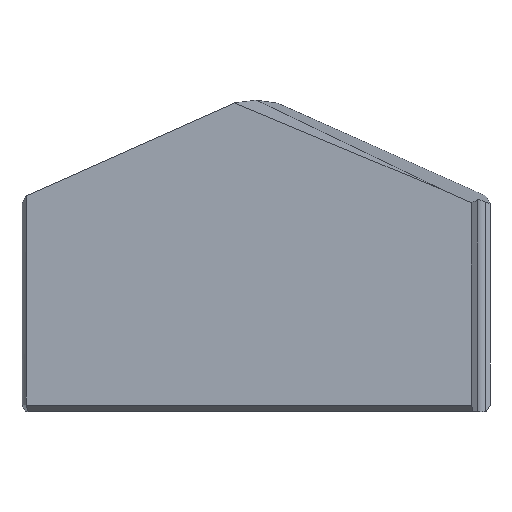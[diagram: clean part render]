
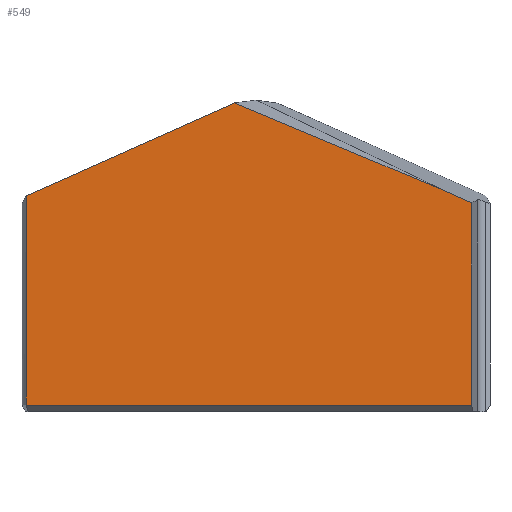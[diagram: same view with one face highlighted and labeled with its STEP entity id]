
A CAD part, top view. The second image highlights one B-rep face of the part: STEP entity #549.
In plain terms, the highlighted planar face has unit normal (0, 0, 1).
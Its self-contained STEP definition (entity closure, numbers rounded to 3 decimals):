
#12 = EDGE_LOOP ( 'NONE', ( #564, #138, #419, #528, #635, #331, #16 ) ) ;
#16 = ORIENTED_EDGE ( 'NONE', *, *, #614, .T. ) ;
#25 = EDGE_CURVE ( 'NONE', #197, #206, #581, .T. ) ;
#38 = DIRECTION ( 'NONE',  ( -0.914, -0.407, 0. ) ) ;
#42 = VERTEX_POINT ( 'NONE', #452 ) ;
#46 = LINE ( 'NONE', #375, #85 ) ;
#81 = VECTOR ( 'NONE', #627, 1000. ) ;
#85 = VECTOR ( 'NONE', #284, 1000. ) ;
#103 = CARTESIAN_POINT ( 'NONE',  ( 4.886, 11.671, 4. ) ) ;
#119 = LINE ( 'NONE', #183, #335 ) ;
#122 = VERTEX_POINT ( 'NONE', #205 ) ;
#138 = ORIENTED_EDGE ( 'NONE', *, *, #25, .T. ) ;
#163 = CARTESIAN_POINT ( 'NONE',  ( -10.527, 0.3, 4. ) ) ;
#164 = CARTESIAN_POINT ( 'NONE',  ( -10.52, 0.289, 4. ) ) ;
#173 = CARTESIAN_POINT ( 'NONE',  ( -10.527, 0., 4. ) ) ;
#174 = EDGE_CURVE ( 'NONE', #122, #522, #566, .T. ) ;
#180 = DIRECTION ( 'NONE',  ( 0., 1., 0. ) ) ;
#182 = LINE ( 'NONE', #427, #561 ) ;
#183 = CARTESIAN_POINT ( 'NONE',  ( 0., 14.56, 4. ) ) ;
#184 = EDGE_CURVE ( 'NONE', #206, #522, #119, .T. ) ;
#188 = PLANE ( 'NONE',  #560 ) ;
#197 = VERTEX_POINT ( 'NONE', #526 ) ;
#201 = EDGE_CURVE ( 'NONE', #474, #317, #182, .T. ) ;
#205 = CARTESIAN_POINT ( 'NONE',  ( -10.527, 0.3, 4. ) ) ;
#206 = VERTEX_POINT ( 'NONE', #575 ) ;
#212 = EDGE_CURVE ( 'NONE', #42, #197, #46, .T. ) ;
#239 = CARTESIAN_POINT ( 'NONE',  ( -10.527, 9.873, 4. ) ) ;
#240 = FACE_OUTER_BOUND ( 'NONE', #12, .T. ) ;
#242 = DIRECTION ( 'NONE',  ( -0.922, 0.386, 0. ) ) ;
#246 = VECTOR ( 'NONE', #180, 1000. ) ;
#258 = LINE ( 'NONE', #343, #81 ) ;
#263 = VECTOR ( 'NONE', #242, 1000. ) ;
#284 = DIRECTION ( 'NONE',  ( -0.914, 0.407, 0. ) ) ;
#316 = CARTESIAN_POINT ( 'NONE',  ( -10.522, 0.292, 4. ) ) ;
#317 = VERTEX_POINT ( 'NONE', #580 ) ;
#331 = ORIENTED_EDGE ( 'NONE', *, *, #201, .T. ) ;
#335 = VECTOR ( 'NONE', #38, 1000. ) ;
#339 = DIRECTION ( 'NONE',  ( 0., 0., 1. ) ) ;
#343 = CARTESIAN_POINT ( 'NONE',  ( 9.865, 0., 4. ) ) ;
#362 = CARTESIAN_POINT ( 'NONE',  ( -10.52, 0.289, 4. ) ) ;
#375 = CARTESIAN_POINT ( 'NONE',  ( 5.181, 11.638, 4. ) ) ;
#415 = CARTESIAN_POINT ( 'NONE',  ( -10.524, 0.296, 4. ) ) ;
#419 = ORIENTED_EDGE ( 'NONE', *, *, #184, .T. ) ;
#427 = CARTESIAN_POINT ( 'NONE',  ( 10.35, 0.289, 4. ) ) ;
#431 = B_SPLINE_CURVE_WITH_KNOTS ( 'NONE', 3,
 ( #163, #415, #316, #164 ),
 .UNSPECIFIED., .F., .F.,
 ( 4, 4 ),
 ( 0., 0. ),
 .UNSPECIFIED. ) ;
#452 = CARTESIAN_POINT ( 'NONE',  ( 9.865, 9.552, 4. ) ) ;
#469 = EDGE_CURVE ( 'NONE', #122, #474, #431, .T. ) ;
#474 = VERTEX_POINT ( 'NONE', #362 ) ;
#522 = VERTEX_POINT ( 'NONE', #239 ) ;
#526 = CARTESIAN_POINT ( 'NONE',  ( 8.566, 10.131, 4. ) ) ;
#528 = ORIENTED_EDGE ( 'NONE', *, *, #174, .F. ) ;
#533 = DIRECTION ( 'NONE',  ( 1., 0., 0. ) ) ;
#547 = CARTESIAN_POINT ( 'NONE',  ( 0., 0., 4. ) ) ;
#549 = ADVANCED_FACE ( 'NONE', ( #240 ), #188, .T. ) ;
#560 = AXIS2_PLACEMENT_3D ( 'NONE', #547, #339, #533 ) ;
#561 = VECTOR ( 'NONE', #616, 1000. ) ;
#564 = ORIENTED_EDGE ( 'NONE', *, *, #212, .T. ) ;
#566 = LINE ( 'NONE', #173, #246 ) ;
#575 = CARTESIAN_POINT ( 'NONE',  ( -0.976, 14.126, 4. ) ) ;
#580 = CARTESIAN_POINT ( 'NONE',  ( 9.865, 0.289, 4. ) ) ;
#581 = LINE ( 'NONE', #103, #263 ) ;
#614 = EDGE_CURVE ( 'NONE', #317, #42, #258, .T. ) ;
#616 = DIRECTION ( 'NONE',  ( 1., 0., 0. ) ) ;
#627 = DIRECTION ( 'NONE',  ( 0., 1., 0. ) ) ;
#635 = ORIENTED_EDGE ( 'NONE', *, *, #469, .T. ) ;
